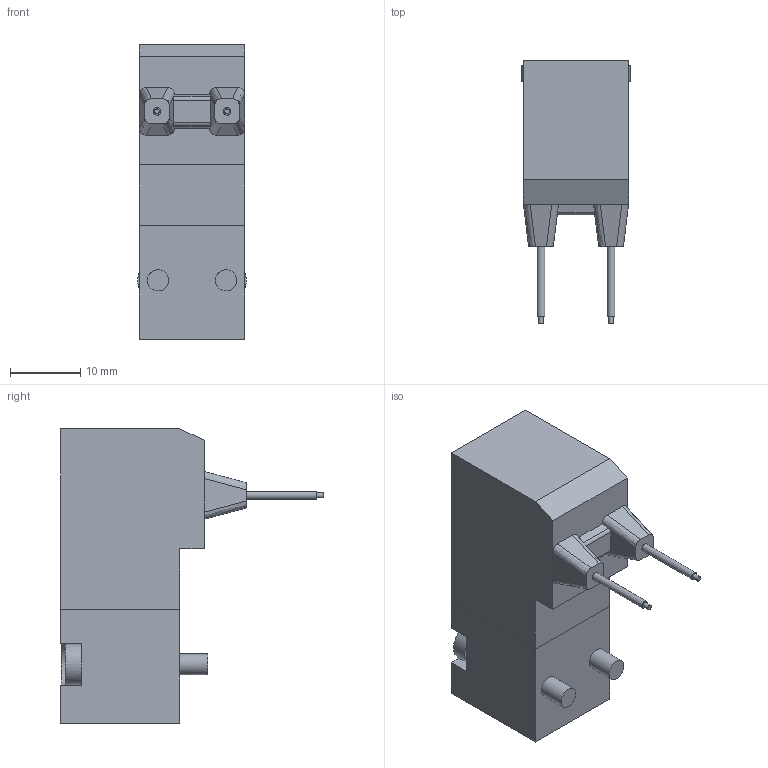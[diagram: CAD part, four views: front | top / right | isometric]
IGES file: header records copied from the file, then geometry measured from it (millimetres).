
Global section: file name: N3##_R2#-2; native system: Autodesk Inventor 2014; preprocessor: unknown; author: A. Manieri; organization: Pneumax S.p.A.; date: 20160908.143348; units: millimetre
Bounding box: 15.5 x 37.5 x 42 mm (x, y, z)
Volume: 11853.9 mm3; surface area: 3885.8 mm2
Topology: 1 solids, 1 shells, 97 faces, 245 edges, 158 vertices
Faces by surface type: bspline 97
